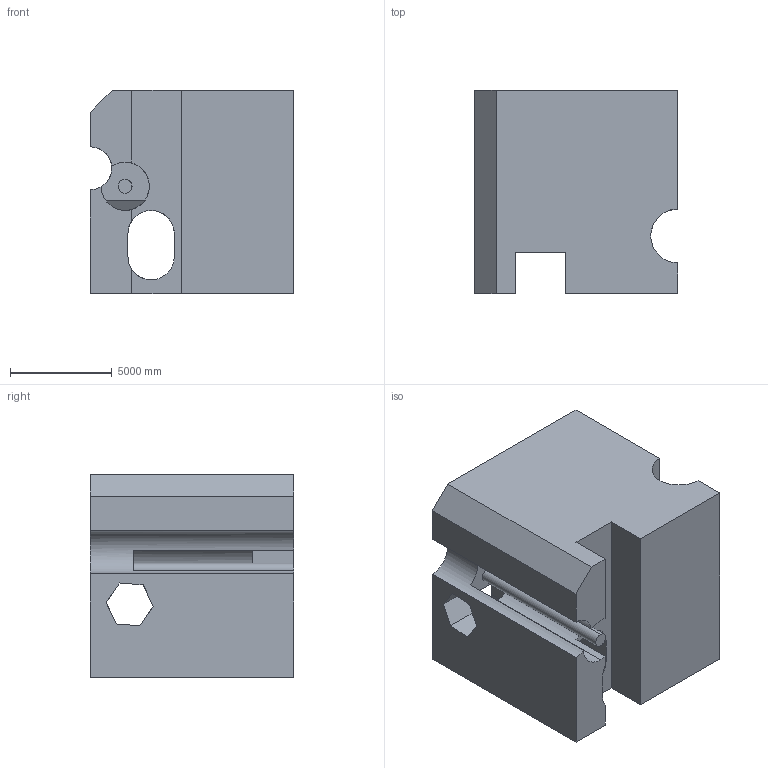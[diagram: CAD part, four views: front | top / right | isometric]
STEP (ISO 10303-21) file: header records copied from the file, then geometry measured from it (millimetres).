
FILE_DESCRIPTION (( 'STEP AP203' ), '1' );
FILE_NAME ('666.STEP', '2022-07-29T12:24:10', ( 'user' ), ( '' ), 'SwSTEP 2.0', 'SolidWorks 2021', '' );
FILE_SCHEMA (( 'CONFIG_CONTROL_DESIGN' ));
Length unit declared in the file: centimetre
Products named in the file (1): 666
Bounding box: 10000 x 10000 x 10000 mm (x, y, z)
Volume: 788616006703 mm3; surface area: 791142411.4 mm2
Topology: 1 solids, 1 shells, 42 faces, 132 edges, 88 vertices
Faces by surface type: plane 31, cylinder 11
Entity records: 1557 total; most frequent: CARTESIAN_POINT 293, ORIENTED_EDGE 264, DIRECTION 236, EDGE_CURVE 132, LINE 94, VECTOR 94, VERTEX_POINT 88, AXIS2_PLACEMENT_3D 71
